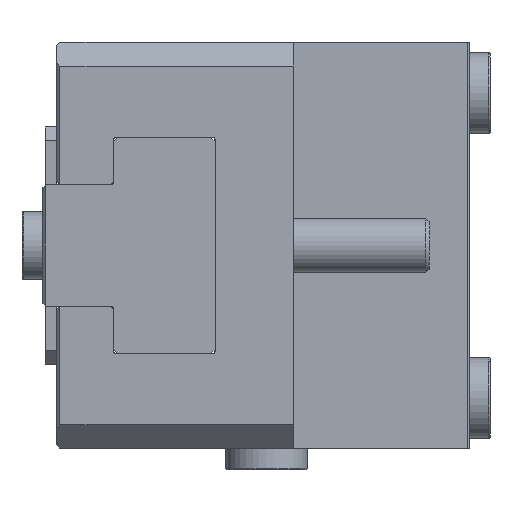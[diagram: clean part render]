
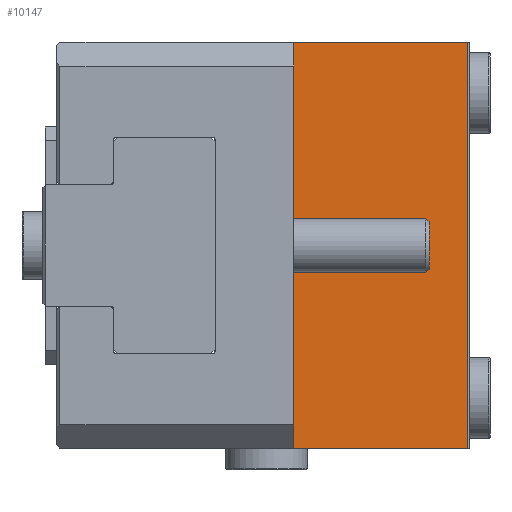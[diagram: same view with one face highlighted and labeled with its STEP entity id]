
A CAD part, left-side view. The second image highlights one B-rep face of the part: STEP entity #10147.
In plain terms, the highlighted planar face has unit normal (-1, 0, 0).
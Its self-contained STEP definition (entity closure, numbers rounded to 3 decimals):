
#517 = CARTESIAN_POINT ( 'NONE',  ( -50., 26., -30. ) ) ;
#800 = PLANE ( 'NONE',  #50612 ) ;
#811 = CARTESIAN_POINT ( 'NONE',  ( -50., 0.3, -30. ) ) ;
#3312 = CARTESIAN_POINT ( 'NONE',  ( -50., 26., 30. ) ) ;
#4577 = DIRECTION ( 'NONE',  ( 0., 1., 0. ) ) ;
#4859 = DIRECTION ( 'NONE',  ( 0., 0., -1. ) ) ;
#7319 = CARTESIAN_POINT ( 'NONE',  ( -50., 26., -30. ) ) ;
#8392 = VERTEX_POINT ( 'NONE', #811 ) ;
#8653 = EDGE_CURVE ( 'NONE', #36801, #8392, #22361, .T. ) ;
#10147 = ADVANCED_FACE ( 'NONE', ( #37770 ), #800, .F. ) ;
#12269 = DIRECTION ( 'NONE',  ( 0., 1., 0. ) ) ;
#13384 = ORIENTED_EDGE ( 'NONE', *, *, #14541, .F. ) ;
#14218 = VECTOR ( 'NONE', #51343, 1000. ) ;
#14541 = EDGE_CURVE ( 'NONE', #8392, #18547, #38167, .T. ) ;
#15256 = CARTESIAN_POINT ( 'NONE',  ( -50., 0.3, 30. ) ) ;
#16481 = CARTESIAN_POINT ( 'NONE',  ( -50., 26., 30. ) ) ;
#18547 = VERTEX_POINT ( 'NONE', #7319 ) ;
#19382 = VERTEX_POINT ( 'NONE', #23560 ) ;
#19723 = CARTESIAN_POINT ( 'NONE',  ( -50., 0.3, 30. ) ) ;
#20726 = CARTESIAN_POINT ( 'NONE',  ( -50., 26., 30. ) ) ;
#22361 = LINE ( 'NONE', #15256, #14218 ) ;
#22785 = ORIENTED_EDGE ( 'NONE', *, *, #40078, .T. ) ;
#23560 = CARTESIAN_POINT ( 'NONE',  ( -50., 26., 30. ) ) ;
#24579 = LINE ( 'NONE', #16481, #39123 ) ;
#27423 = VECTOR ( 'NONE', #4577, 1000. ) ;
#27455 = DIRECTION ( 'NONE',  ( 0., 0., -1. ) ) ;
#28992 = DIRECTION ( 'NONE',  ( 1., 0., 0. ) ) ;
#30187 = VECTOR ( 'NONE', #27455, 1000. ) ;
#36801 = VERTEX_POINT ( 'NONE', #19723 ) ;
#37770 = FACE_OUTER_BOUND ( 'NONE', #47342, .T. ) ;
#37924 = ORIENTED_EDGE ( 'NONE', *, *, #8653, .F. ) ;
#38167 = LINE ( 'NONE', #517, #27423 ) ;
#39123 = VECTOR ( 'NONE', #12269, 1000. ) ;
#40078 = EDGE_CURVE ( 'NONE', #36801, #19382, #24579, .T. ) ;
#40874 = EDGE_CURVE ( 'NONE', #19382, #18547, #40954, .T. ) ;
#40954 = LINE ( 'NONE', #3312, #30187 ) ;
#41862 = ORIENTED_EDGE ( 'NONE', *, *, #40874, .T. ) ;
#47342 = EDGE_LOOP ( 'NONE', ( #37924, #22785, #41862, #13384 ) ) ;
#50612 = AXIS2_PLACEMENT_3D ( 'NONE', #20726, #28992, #4859 ) ;
#51343 = DIRECTION ( 'NONE',  ( 0., 0., -1. ) ) ;
